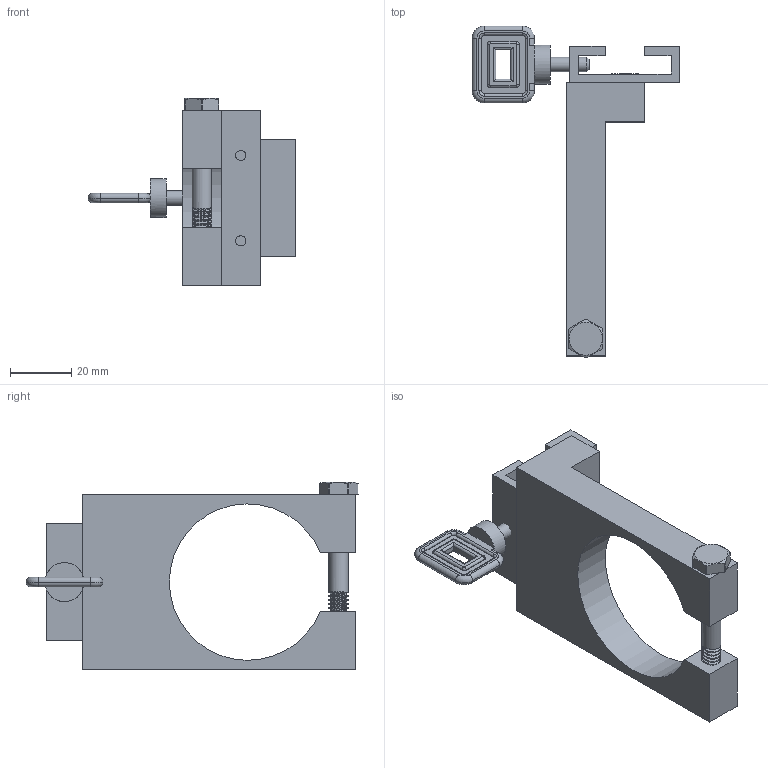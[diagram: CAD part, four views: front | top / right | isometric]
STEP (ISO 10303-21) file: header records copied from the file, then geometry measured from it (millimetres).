
FILE_DESCRIPTION((''),'2;1');
FILE_NAME('C:\3D Projects\3D Standard Parts\98406 Rev B Valve Mounting Bracket Kit For 983914 & 986300.stp','2008-04-28T16:27:35',('patch'),(''),'Autodesk Inventor 2008','Autodesk Inventor 2008','');
FILE_SCHEMA(('AUTOMOTIVE_DESIGN { 1 0 10303 214 1 1 1 1 }'));
Length unit declared in the file: inch
Products named in the file (6): 98406 Rev B Valve Mounting Bracket Kit For 983914 & 986300; 987947 Rev A C-Clamp; 988156 Valve Mounting Bracket For 983914; 984331 Flat Head Socket Screw #8-32 x 0.5; 987903 Regular Hex Bolt 0.25-20 x 2; 987948 Rev A Thumbscrew
Assembly tree (6 placements, depth 2):
  98406 Rev B Valve Mounting Bracket Kit For 983914 & 986300
    987947 Rev A C-Clamp
    988156 Valve Mounting Bracket For 983914
    984331 Flat Head Socket Screw #8-32 x 0.5  x2
    987903 Regular Hex Bolt 0.25-20 x 2
    987948 Rev A Thumbscrew
Bounding box: 67.67 x 108.09 x 61.12 mm (x, y, z)
Volume: 55984.8 mm3; surface area: 23941.1 mm2
Topology: 6 solids, 6 shells, 393 faces, 966 edges, 597 vertices
Faces by surface type: cylinder 138, cone 108, plane 94, bspline 34, torus 19
Full cylindrical faces by diameter (mm): 3.551 x22, 4.166 x22, 4.826 x1, 5.387 x14, 6.35 x14, 12.7 x1
Entity records: 12337 total; most frequent: CARTESIAN_POINT 5539, DIRECTION 1310, ORIENTED_EDGE 1280, EDGE_CURVE 640, AXIS2_PLACEMENT_3D 538, VERTEX_POINT 465, EDGE_LOOP 459, FACE_OUTER_BOUND 314
